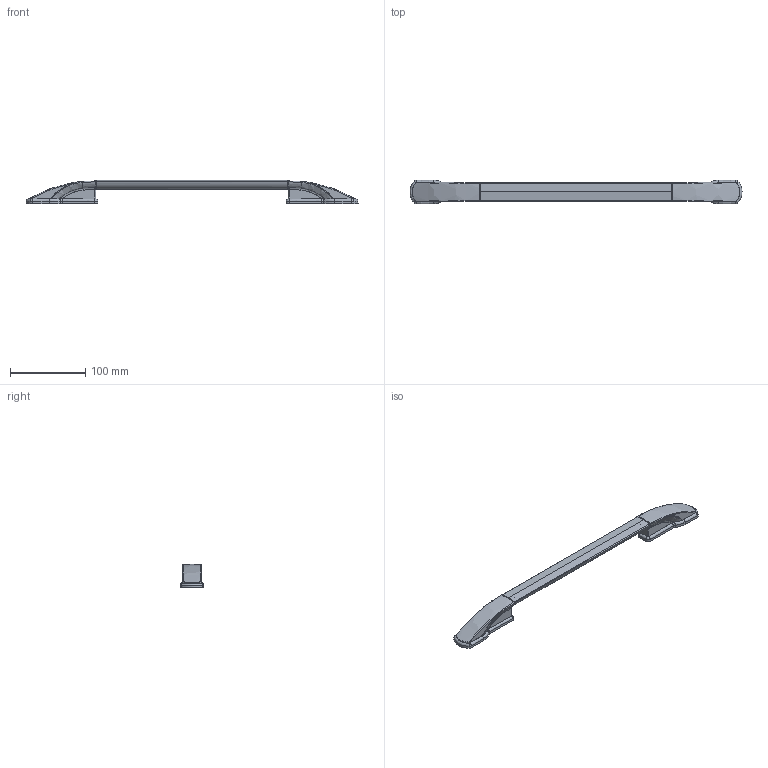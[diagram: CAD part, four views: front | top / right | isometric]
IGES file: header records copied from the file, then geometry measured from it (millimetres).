
Start section: C
Global section: file name: 8206.igs; native system: By Siemens PLM Incorporated; preprocessor: XPlus GENERIC/IGES 16.0.42; author: Author; organization: Title; date: 20231116.091732; units: millimetre
Bounding box: 440.96 x 31.23 x 30.99 mm (x, y, z)
Surface area: 68058.7 mm2 (no closed solid volume)
Topology: 0 solids, 0 shells, 694 faces, 3592 edges, 3568 vertices
Faces by surface type: bspline 694
